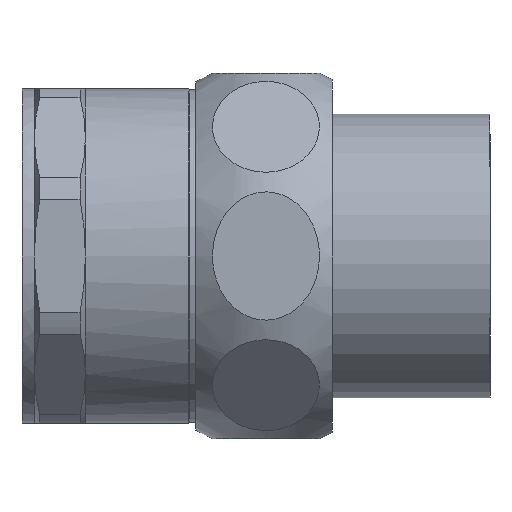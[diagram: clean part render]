
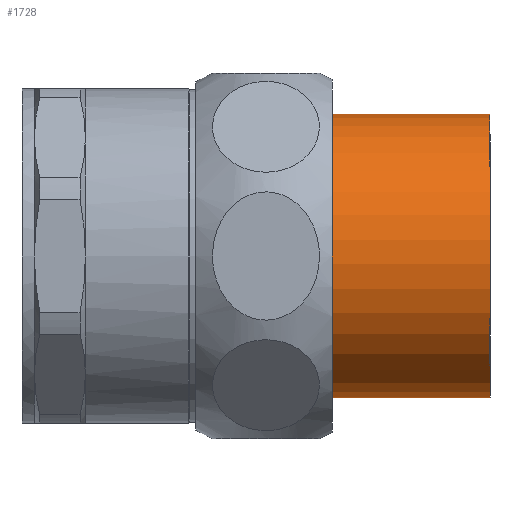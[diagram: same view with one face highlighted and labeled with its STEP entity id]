
A CAD part, front view. The second image highlights one B-rep face of the part: STEP entity #1728.
In plain terms, the highlighted cylindrical face has radius 22.95 mm (diameter 45.9 mm), a full revolution.
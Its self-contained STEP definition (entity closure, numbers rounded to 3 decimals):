
#1686=CARTESIAN_POINT('',(9.,22.95,0.0));
#1687=VERTEX_POINT('',#1686);
#1688=CARTESIAN_POINT('',(9.,0.,0.0));
#1689=DIRECTION('',(1.0,0.0,0.0));
#1690=DIRECTION('',(0.0,-1.0,0.0));
#1691=AXIS2_PLACEMENT_3D('',#1688,#1689,#1690);
#1692=CIRCLE('',#1691,22.95);
#1693=EDGE_CURVE('',#1687,#1687,#1692,.T.);
#1709=CARTESIAN_POINT('',(-5.,0.,0.0));
#1710=DIRECTION('',(1.0,0.,0.0));
#1711=DIRECTION('',(0.0,1.0,0.0));
#1712=AXIS2_PLACEMENT_3D('',#1709,#1710,#1711);
#1713=CYLINDRICAL_SURFACE('',#1712,22.95);
#1714=CARTESIAN_POINT('',(-20.,22.95,0.0));
#1715=VERTEX_POINT('',#1714);
#1716=CARTESIAN_POINT('',(-20.,0.,0.0));
#1717=DIRECTION('',(1.0,0.0,0.0));
#1718=DIRECTION('',(0.0,1.0,0.0));
#1719=AXIS2_PLACEMENT_3D('',#1716,#1717,#1718);
#1720=CIRCLE('',#1719,22.95);
#1721=EDGE_CURVE('',#1715,#1715,#1720,.T.);
#1722=ORIENTED_EDGE('',*,*,#1721,.T.);
#1723=EDGE_LOOP('',(#1722));
#1724=FACE_OUTER_BOUND('',#1723,.T.);
#1725=ORIENTED_EDGE('',*,*,#1693,.F.);
#1726=EDGE_LOOP('',(#1725));
#1727=FACE_BOUND('',#1726,.T.);
#1728=ADVANCED_FACE('',(#1724,#1727),#1713,.T.);
